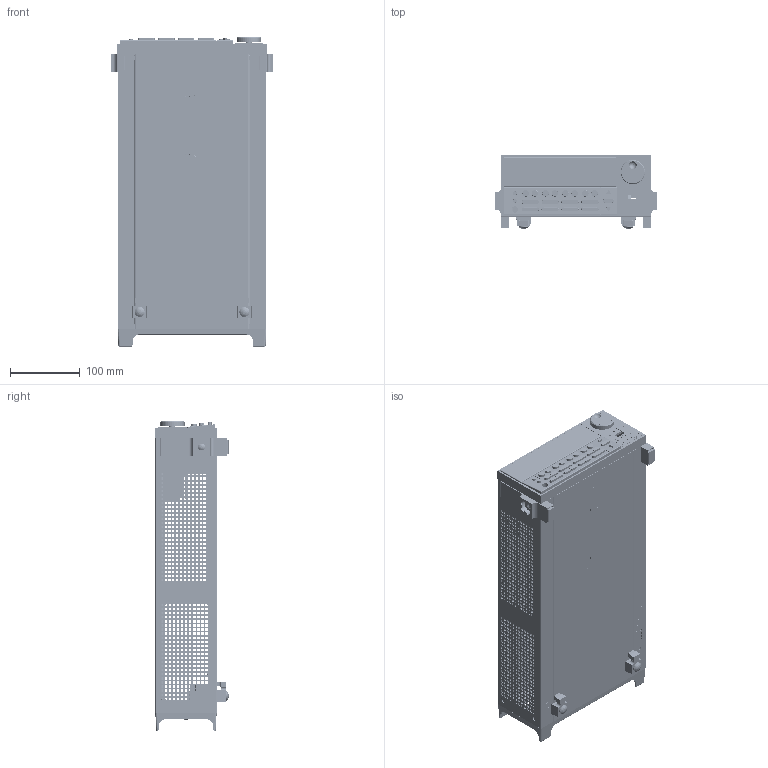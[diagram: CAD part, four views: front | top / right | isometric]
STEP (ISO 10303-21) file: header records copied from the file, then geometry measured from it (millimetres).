
FILE_DESCRIPTION((''),'2;1');
FILE_NAME('2614B-SALES_ASM','2024-10-25T14:46:54',('u603758'),(''),'CREO PARAMETRIC BY PTC INC, 2022284','CREO PARAMETRIC BY PTC INC, 2022284','');
FILE_SCHEMA(('CONFIG_CONTROL_DESIGN','SHAPE_APPEARANCE_LAYERS_GROUPS'));
Length unit declared in the file: inch
Products named in the file (82): 2602-301_1_1; 2602-301_1_2; 2602-301_1_3; 2602-301_1_4; 2602-301_1_5; 2602-301_1_6; 2602-301_1_7; 2602-301_1_8; 2602-301_1_9; 2602-301_1_10; 2602-301_1_11; 2602-301_1_12; 2602-301_1_13; 2602-301_1_14; 2602-301_1_15; 2602-301_1_16; 2602-301_1_17; 2602-301_1_18; 2602-301_1_19; 2602-301_1_20; 2602-301_1_21; 2602-301_1_22; 2602-301_1_23; 2602-301_1_24; 2602-301_1_25; 2602-301_1_ASM; 2614B-303_1_1; 2614B-303_1_2; 2614B-303_1_3; 2614B-303_1_4; 2614B-303_1_5; 2614B-303_1_6; 2614B-303_1_ASM; 2614B-304_1; 2614B-303_ASM_1_ASM; 6-32X1-4PFH_1; BJ-19-5_1; LF-11-PURCHPART_1; 4-40X1-4PFH_1; CC-99-1-085_1_1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
Assembly tree (103 placements, depth 6):
  2614B-SALES_ASM
    2614B_ASM_1_ASM
      2602-301_1_ASM
        2602-301_1_1
        2602-301_1_2
        2602-301_1_3
        2602-301_1_4
        2602-301_1_5
        2602-301_1_6
        2602-301_1_7
        2602-301_1_8
        2602-301_1_9
        2602-301_1_10
        2602-301_1_11
        2602-301_1_12
        2602-301_1_13
        2602-301_1_14
        2602-301_1_15
        2602-301_1_16
        2602-301_1_17
        2602-301_1_18
        2602-301_1_19
        2602-301_1_20
        2602-301_1_21
        2602-301_1_22
        2602-301_1_23
        2602-301_1_24
        2602-301_1_25
      2614B-303_ASM_1_ASM
        2614B-303_1_ASM
          2614B-303_1_1
          2614B-303_1_2
          2614B-303_1_3
          2614B-303_1_4
          2614B-303_1_5
          2614B-303_1_6
        2614B-304_1
      6-32X1-4PFH_1  x2
      BJ-19-5_1
      LF-11-PURCHPART_1
      4-40X1-4PFH_1  x8
      CC-99-1-085_1_ASM  x2
        CC-99-1-085_1_1
        CC-99-1-085_1_2
      CS-713_1  x2
      CA-357-2-ASSY_1
      CS-725_1  x4
      CA-358-ASSY_1
      4-40X1-4PPH_1  x2
      428-319_1  x2
      FE-6_1  x2
      2614B-FRONT-PANEL_ASM_1_ASM
        2602A-325_ASM_1_ASM
          2602A-305_1
          2602-306_1
        2602A-315_ASM_1_ASM
          2602A-315_1
          2602-316_1
        2602-326_1
        SW-515-1_1
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Bounding box: 231.65 x 105.44 x 444.3 mm (x, y, z)
Volume: 706067.1 mm3; surface area: 963760.9 mm2
Topology: 86 solids, 86 shells, 17060 faces, 48818 edges, 32504 vertices
Faces by surface type: plane 15660, cylinder 1115, cone 205, torus 36, sphere 28, bspline 16
Entity records: 662078 total; most frequent: CARTESIAN_POINT 97996, ORIENTED_EDGE 95042, DIRECTION 83328, EDGE_CURVE 47521, VECTOR 44890, LINE 44890, PRESENTATION_STYLE_ASSIGNMENT 38736, STYLED_ITEM 38651
